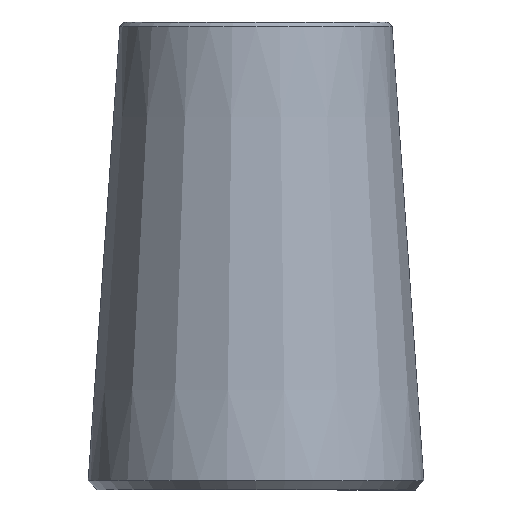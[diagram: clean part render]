
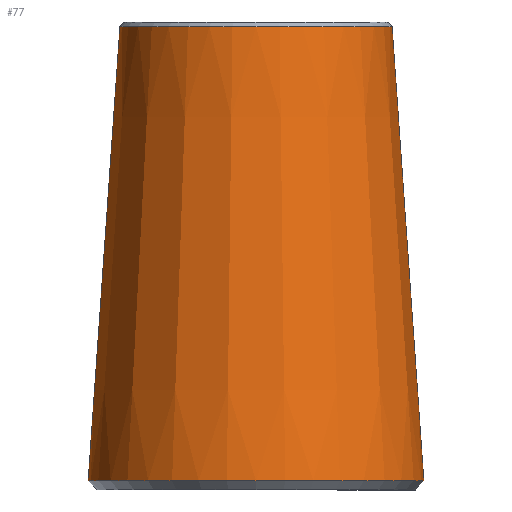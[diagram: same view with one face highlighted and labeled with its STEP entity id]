
A CAD part, left-side view. The second image highlights one B-rep face of the part: STEP entity #77.
In plain terms, the highlighted conical face has half-angle 4 degrees and reference radius 16.252 mm.
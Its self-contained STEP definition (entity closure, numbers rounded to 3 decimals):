
#20=FACE_BOUND('',#34,.T.);
#25=FACE_OUTER_BOUND('',#33,.T.);
#33=EDGE_LOOP('',(#63));
#34=EDGE_LOOP('',(#64));
#44=CIRCLE('',#87,17.93);
#45=CIRCLE('',#89,14.539);
#50=VERTEX_POINT('',#130);
#51=VERTEX_POINT('',#133);
#56=EDGE_CURVE('',#50,#50,#44,.T.);
#57=EDGE_CURVE('',#51,#51,#45,.T.);
#63=ORIENTED_EDGE('',*,*,#57,.F.);
#64=ORIENTED_EDGE('',*,*,#56,.F.);
#74=CONICAL_SURFACE('',#88,16.252,4.);
#77=ADVANCED_FACE('',(#25,#20),#74,.T.);
#87=AXIS2_PLACEMENT_3D('',#131,#104,#105);
#88=AXIS2_PLACEMENT_3D('',#132,#106,#107);
#89=AXIS2_PLACEMENT_3D('',#134,#108,#109);
#104=DIRECTION('center_axis',(0.,0.,
-1.));
#105=DIRECTION('ref_axis',(0.,1.,0.));
#106=DIRECTION('center_axis',(0.,0.,-1.));
#107=DIRECTION('ref_axis',(0.,-1.,0.));
#108=DIRECTION('center_axis',(0.,0.,1.));
#109=DIRECTION('ref_axis',(0.,1.,0.));
#130=CARTESIAN_POINT('',(0.,-17.93,0.998));
#131=CARTESIAN_POINT('Origin',(0.,0.,
0.998));
#132=CARTESIAN_POINT('Origin',(0.,0.,25.));
#133=CARTESIAN_POINT('',(0.,-14.539,49.501));
#134=CARTESIAN_POINT('Origin',(0.,0.,
49.501));
